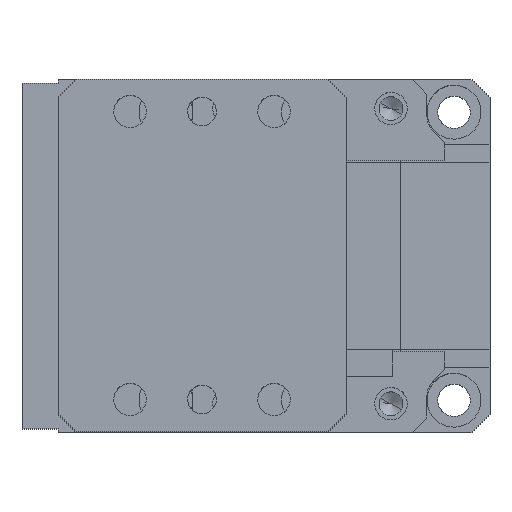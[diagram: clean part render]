
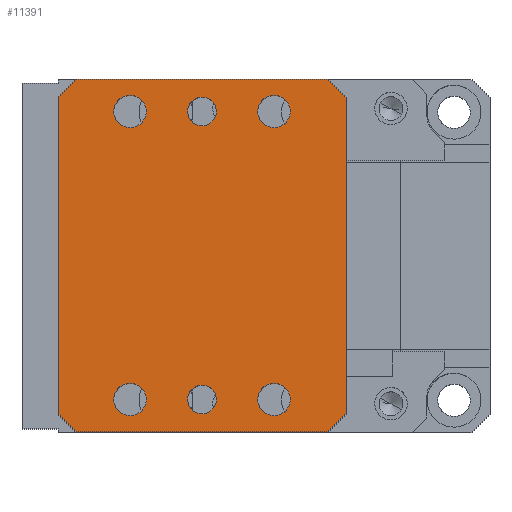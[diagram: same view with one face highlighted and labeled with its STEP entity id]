
A CAD part, top view. The second image highlights one B-rep face of the part: STEP entity #11391.
In plain terms, the highlighted planar face has unit normal (0, 0, 1).
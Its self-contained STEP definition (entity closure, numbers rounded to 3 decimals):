
#10817=CARTESIAN_POINT('Vertex',(5.,49.,165.)) ;
#10820=CARTESIAN_POINT('Line Origine',(40.,49.,165.)) ;
#10824=CARTESIAN_POINT('Vertex',(75.,49.,165.)) ;
#10940=CARTESIAN_POINT('Vertex',(0.,44.,165.)) ;
#10943=CARTESIAN_POINT('Line Origine',(0.,44.,165.)) ;
#11084=CARTESIAN_POINT('Vertex',(75.,-49.,165.)) ;
#11089=CARTESIAN_POINT('Line Origine',(40.,-49.,165.)) ;
#11093=CARTESIAN_POINT('Vertex',(5.,-49.,165.)) ;
#11207=CARTESIAN_POINT('Line Origine',(0.,-44.,165.)) ;
#11211=CARTESIAN_POINT('Vertex',(0.,-44.,165.)) ;
#11244=CARTESIAN_POINT('Axis2P3D Location',(115.004,0.,165.)) ;
#11249=CARTESIAN_POINT('Line Origine',(77.5,-46.5,165.)) ;
#11253=CARTESIAN_POINT('Vertex',(80.,-44.,165.)) ;
#11256=CARTESIAN_POINT('Line Origine',(80.,0.,165.)) ;
#11260=CARTESIAN_POINT('Vertex',(80.,44.,165.)) ;
#11263=CARTESIAN_POINT('Line Origine',(77.5,46.5,165.)) ;
#11268=CARTESIAN_POINT('Line Origine',(0.,0.,165.)) ;
#11283=CARTESIAN_POINT('Axis2P3D Location',(20.,-40.,165.)) ;
#11287=CARTESIAN_POINT('Vertex',(17.843,-36.051,165.)) ;
#11289=CARTESIAN_POINT('Vertex',(22.157,-43.949,165.)) ;
#11292=CARTESIAN_POINT('Axis2P3D Location',(20.,-40.,165.)) ;
#11301=CARTESIAN_POINT('Axis2P3D Location',(60.,-40.,165.)) ;
#11305=CARTESIAN_POINT('Vertex',(57.843,-36.051,165.)) ;
#11307=CARTESIAN_POINT('Vertex',(62.157,-43.949,165.)) ;
#11310=CARTESIAN_POINT('Axis2P3D Location',(60.,-40.,165.)) ;
#11319=CARTESIAN_POINT('Axis2P3D Location',(60.,40.,165.)) ;
#11323=CARTESIAN_POINT('Vertex',(57.843,43.949,165.)) ;
#11325=CARTESIAN_POINT('Vertex',(62.157,36.051,165.)) ;
#11328=CARTESIAN_POINT('Axis2P3D Location',(60.,40.,165.)) ;
#11337=CARTESIAN_POINT('Axis2P3D Location',(20.,40.,165.)) ;
#11341=CARTESIAN_POINT('Vertex',(17.843,43.949,165.)) ;
#11343=CARTESIAN_POINT('Vertex',(22.157,36.051,165.)) ;
#11346=CARTESIAN_POINT('Axis2P3D Location',(20.,40.,165.)) ;
#11355=CARTESIAN_POINT('Axis2P3D Location',(40.,-40.,165.)) ;
#11359=CARTESIAN_POINT('Vertex',(38.082,-36.49,165.)) ;
#11361=CARTESIAN_POINT('Vertex',(41.918,-43.51,165.)) ;
#11364=CARTESIAN_POINT('Axis2P3D Location',(40.,-40.,165.)) ;
#11373=CARTESIAN_POINT('Axis2P3D Location',(40.,40.,165.)) ;
#11377=CARTESIAN_POINT('Vertex',(38.082,43.51,165.)) ;
#11379=CARTESIAN_POINT('Vertex',(41.918,36.49,165.)) ;
#11382=CARTESIAN_POINT('Axis2P3D Location',(40.,40.,165.)) ;
#10822=VECTOR('Line Direction',#10821,1.) ;
#10945=VECTOR('Line Direction',#10944,1.) ;
#11091=VECTOR('Line Direction',#11090,1.) ;
#11209=VECTOR('Line Direction',#11208,1.) ;
#11251=VECTOR('Line Direction',#11250,1.) ;
#11258=VECTOR('Line Direction',#11257,1.) ;
#11265=VECTOR('Line Direction',#11264,1.) ;
#11270=VECTOR('Line Direction',#11269,1.) ;
#10821=DIRECTION('Vector Direction',(-1.,0.,0.)) ;
#10944=DIRECTION('Vector Direction',(0.707,0.707,0.)) ;
#11090=DIRECTION('Vector Direction',(-1.,0.,0.)) ;
#11208=DIRECTION('Vector Direction',(0.707,-0.707,0.)) ;
#11245=DIRECTION('Axis2P3D Direction',(0.,0.,1.)) ;
#11246=DIRECTION('Axis2P3D XDirection',(-1.,0.,0.)) ;
#11250=DIRECTION('Vector Direction',(-0.707,-0.707,0.)) ;
#11257=DIRECTION('Vector Direction',(0.,1.,0.)) ;
#11264=DIRECTION('Vector Direction',(-0.707,0.707,0.)) ;
#11269=DIRECTION('Vector Direction',(0.,-1.,0.)) ;
#11284=DIRECTION('Axis2P3D Direction',(0.,0.,1.)) ;
#11293=DIRECTION('Axis2P3D Direction',(0.,0.,1.)) ;
#11302=DIRECTION('Axis2P3D Direction',(0.,0.,1.)) ;
#11311=DIRECTION('Axis2P3D Direction',(0.,0.,1.)) ;
#11320=DIRECTION('Axis2P3D Direction',(0.,0.,1.)) ;
#11329=DIRECTION('Axis2P3D Direction',(0.,0.,1.)) ;
#11338=DIRECTION('Axis2P3D Direction',(0.,0.,1.)) ;
#11347=DIRECTION('Axis2P3D Direction',(0.,0.,1.)) ;
#11356=DIRECTION('Axis2P3D Direction',(0.,0.,1.)) ;
#11365=DIRECTION('Axis2P3D Direction',(0.,0.,1.)) ;
#11374=DIRECTION('Axis2P3D Direction',(0.,0.,1.)) ;
#11383=DIRECTION('Axis2P3D Direction',(0.,0.,1.)) ;
#11247=AXIS2_PLACEMENT_3D('Plane Axis2P3D',#11244,#11245,#11246) ;
#11285=AXIS2_PLACEMENT_3D('Circle Axis2P3D',#11283,#11284,$) ;
#11294=AXIS2_PLACEMENT_3D('Circle Axis2P3D',#11292,#11293,$) ;
#11303=AXIS2_PLACEMENT_3D('Circle Axis2P3D',#11301,#11302,$) ;
#11312=AXIS2_PLACEMENT_3D('Circle Axis2P3D',#11310,#11311,$) ;
#11321=AXIS2_PLACEMENT_3D('Circle Axis2P3D',#11319,#11320,$) ;
#11330=AXIS2_PLACEMENT_3D('Circle Axis2P3D',#11328,#11329,$) ;
#11339=AXIS2_PLACEMENT_3D('Circle Axis2P3D',#11337,#11338,$) ;
#11348=AXIS2_PLACEMENT_3D('Circle Axis2P3D',#11346,#11347,$) ;
#11357=AXIS2_PLACEMENT_3D('Circle Axis2P3D',#11355,#11356,$) ;
#11366=AXIS2_PLACEMENT_3D('Circle Axis2P3D',#11364,#11365,$) ;
#11375=AXIS2_PLACEMENT_3D('Circle Axis2P3D',#11373,#11374,$) ;
#11384=AXIS2_PLACEMENT_3D('Circle Axis2P3D',#11382,#11383,$) ;
#10823=LINE('Line',#10820,#10822) ;
#10946=LINE('Line',#10943,#10945) ;
#11092=LINE('Line',#11089,#11091) ;
#11210=LINE('Line',#11207,#11209) ;
#11252=LINE('Line',#11249,#11251) ;
#11259=LINE('Line',#11256,#11258) ;
#11266=LINE('Line',#11263,#11265) ;
#11271=LINE('Line',#11268,#11270) ;
#11286=CIRCLE('generated circle',#11285,4.5) ;
#11295=CIRCLE('generated circle',#11294,4.5) ;
#11304=CIRCLE('generated circle',#11303,4.5) ;
#11313=CIRCLE('generated circle',#11312,4.5) ;
#11322=CIRCLE('generated circle',#11321,4.5) ;
#11331=CIRCLE('generated circle',#11330,4.5) ;
#11340=CIRCLE('generated circle',#11339,4.5) ;
#11349=CIRCLE('generated circle',#11348,4.5) ;
#11358=CIRCLE('generated circle',#11357,4.) ;
#11367=CIRCLE('generated circle',#11366,4.) ;
#11376=CIRCLE('generated circle',#11375,4.) ;
#11385=CIRCLE('generated circle',#11384,4.) ;
#11248=PLANE('',#11247) ;
#11300=FACE_BOUND('',#11297,.T.) ;
#11318=FACE_BOUND('',#11315,.T.) ;
#11336=FACE_BOUND('',#11333,.T.) ;
#11354=FACE_BOUND('',#11351,.T.) ;
#11372=FACE_BOUND('',#11369,.T.) ;
#11390=FACE_BOUND('',#11387,.T.) ;
#10826=EDGE_CURVE('',#10825,#10818,#10823,.T.) ;
#10947=EDGE_CURVE('',#10941,#10818,#10946,.T.) ;
#11095=EDGE_CURVE('',#11085,#11094,#11092,.T.) ;
#11213=EDGE_CURVE('',#11212,#11094,#11210,.T.) ;
#11255=EDGE_CURVE('',#11254,#11085,#11252,.T.) ;
#11262=EDGE_CURVE('',#11261,#11254,#11259,.F.) ;
#11267=EDGE_CURVE('',#11261,#10825,#11266,.T.) ;
#11272=EDGE_CURVE('',#11212,#10941,#11271,.F.) ;
#11291=EDGE_CURVE('',#11288,#11290,#11286,.T.) ;
#11296=EDGE_CURVE('',#11290,#11288,#11295,.T.) ;
#11309=EDGE_CURVE('',#11306,#11308,#11304,.T.) ;
#11314=EDGE_CURVE('',#11308,#11306,#11313,.T.) ;
#11327=EDGE_CURVE('',#11324,#11326,#11322,.T.) ;
#11332=EDGE_CURVE('',#11326,#11324,#11331,.T.) ;
#11345=EDGE_CURVE('',#11342,#11344,#11340,.T.) ;
#11350=EDGE_CURVE('',#11344,#11342,#11349,.T.) ;
#11363=EDGE_CURVE('',#11360,#11362,#11358,.T.) ;
#11368=EDGE_CURVE('',#11362,#11360,#11367,.T.) ;
#11381=EDGE_CURVE('',#11378,#11380,#11376,.T.) ;
#11386=EDGE_CURVE('',#11380,#11378,#11385,.T.) ;
#11273=EDGE_LOOP('',(#11274,#11275,#11276,#11277,#11278,#11279,#11280,#11281)) ;
#11297=EDGE_LOOP('',(#11298,#11299)) ;
#11315=EDGE_LOOP('',(#11316,#11317)) ;
#11333=EDGE_LOOP('',(#11334,#11335)) ;
#11351=EDGE_LOOP('',(#11352,#11353)) ;
#11369=EDGE_LOOP('',(#11370,#11371)) ;
#11387=EDGE_LOOP('',(#11388,#11389)) ;
#11274=ORIENTED_EDGE('',*,*,#11213,.T.) ;
#11275=ORIENTED_EDGE('',*,*,#11095,.F.) ;
#11276=ORIENTED_EDGE('',*,*,#11255,.F.) ;
#11277=ORIENTED_EDGE('',*,*,#11262,.F.) ;
#11278=ORIENTED_EDGE('',*,*,#11267,.T.) ;
#11279=ORIENTED_EDGE('',*,*,#10826,.T.) ;
#11280=ORIENTED_EDGE('',*,*,#10947,.F.) ;
#11281=ORIENTED_EDGE('',*,*,#11272,.F.) ;
#11298=ORIENTED_EDGE('',*,*,#11291,.F.) ;
#11299=ORIENTED_EDGE('',*,*,#11296,.F.) ;
#11316=ORIENTED_EDGE('',*,*,#11309,.F.) ;
#11317=ORIENTED_EDGE('',*,*,#11314,.F.) ;
#11334=ORIENTED_EDGE('',*,*,#11327,.F.) ;
#11335=ORIENTED_EDGE('',*,*,#11332,.F.) ;
#11352=ORIENTED_EDGE('',*,*,#11345,.F.) ;
#11353=ORIENTED_EDGE('',*,*,#11350,.F.) ;
#11370=ORIENTED_EDGE('',*,*,#11363,.F.) ;
#11371=ORIENTED_EDGE('',*,*,#11368,.F.) ;
#11388=ORIENTED_EDGE('',*,*,#11381,.F.) ;
#11389=ORIENTED_EDGE('',*,*,#11386,.F.) ;
#10818=VERTEX_POINT('',#10817) ;
#10825=VERTEX_POINT('',#10824) ;
#10941=VERTEX_POINT('',#10940) ;
#11085=VERTEX_POINT('',#11084) ;
#11094=VERTEX_POINT('',#11093) ;
#11212=VERTEX_POINT('',#11211) ;
#11254=VERTEX_POINT('',#11253) ;
#11261=VERTEX_POINT('',#11260) ;
#11288=VERTEX_POINT('',#11287) ;
#11290=VERTEX_POINT('',#11289) ;
#11306=VERTEX_POINT('',#11305) ;
#11308=VERTEX_POINT('',#11307) ;
#11324=VERTEX_POINT('',#11323) ;
#11326=VERTEX_POINT('',#11325) ;
#11342=VERTEX_POINT('',#11341) ;
#11344=VERTEX_POINT('',#11343) ;
#11360=VERTEX_POINT('',#11359) ;
#11362=VERTEX_POINT('',#11361) ;
#11378=VERTEX_POINT('',#11377) ;
#11380=VERTEX_POINT('',#11379) ;
#11391=ADVANCED_FACE('opened position',(#11282,#11300,#11318,#11336,#11354,#11372,#11390),#11248,.T.) ;
#11282=FACE_OUTER_BOUND('',#11273,.T.) ;
